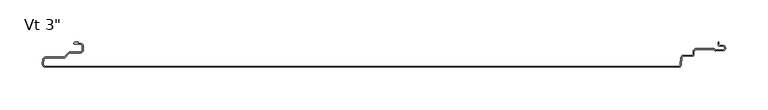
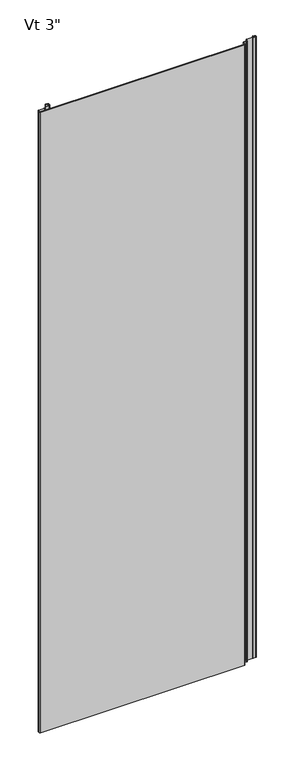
"""IFC4 building model written with IfcOpenShell, lengths in millimetres: plate geometry."""

from ifc_helpers import new_model, si_unit, point, frame_2d, origin, origin_with_axes, place, context, project, spatial, polyline, circle_curve, trimmed, segment, composite_curve, outline, extrude, source, transform, mapped, element, save


def plate_7c59897c(model_context):
    return source(origin(), model_context, "Body", "SweptSolid", [
        extrude(outline(composite_curve([segment(polyline([(-417.0087549, -72.3184064), (-416.5690675, -67.294441)]), True, "CONTINUOUS"), segment(trimmed(circle_curve(frame_2d((-412.9198392, -67.9052421)), 3.6999926), [point((-416.5690675, -67.294441))], [point((-412.9198392, -64.2052495))], False, "CARTESIAN"), True, "CONTINUOUS"), segment(polyline([(-412.9198392, -64.2052495), (-391.7773997, -64.2052495)]), True, "CONTINUOUS"), segment(trimmed(circle_curve(frame_2d((-391.7773997, -62.9052521)), 1.2999974), [point((-391.7773997, -64.2052495))], [point((-390.8581627, -63.8244891))], True, "CARTESIAN"), True, "CONTINUOUS"), segment(polyline([(-390.8581627, -63.8244891), (-386.0297453, -58.9960716)]), True, "CONTINUOUS"), segment(trimmed(circle_curve(frame_2d((-384.1205608, -60.9052561)), 2.6999946), [point((-386.0297453, -58.9960716))], [point((-384.1205608, -58.2052615))], False, "CARTESIAN"), True, "CONTINUOUS"), segment(polyline([(-384.1205608, -58.2052615), (-372.3096717, -58.2052615)]), True, "CONTINUOUS"), segment(trimmed(circle_curve(frame_2d((-372.3096717, -55.8552662)), 2.3499953), [point((-372.3096717, -58.2052615))], [point((-369.9596764, -55.8552662))], True, "CARTESIAN"), True, "CONTINUOUS"), segment(polyline([(-369.9596764, -55.8552662), (-369.9596764, -51.455275)]), True, "CONTINUOUS"), segment(trimmed(circle_curve(frame_2d((-372.3096717, -51.455275)), 2.3499953), [point((-369.9596764, -51.455275))], [point((-372.3096717, -49.1052797))], True, "CARTESIAN"), True, "CONTINUOUS"), segment(polyline([(-372.3096717, -49.1052797), (-378.8289779, -49.1052797)]), True, "CONTINUOUS"), segment(trimmed(circle_curve(frame_2d((-378.7686908, -47.9067974)), 1.1999976), [point((-378.8289779, -49.1052797))], [point((-379.9683001, -47.8762755))], False, "CARTESIAN"), True, "CONTINUOUS"), segment(trimmed(circle_curve(frame_2d((-378.7686908, -47.9067974)), 1.1999976), [point((-379.9683001, -47.8762755))], [point((-378.7671761, -46.7068008))], False, "CARTESIAN"), True, "CONTINUOUS"), segment(polyline([(-378.7671761, -46.7068008), (-375.0087827, -46.7068008), (-375.0087827, -48.1052797), (-372.3096717, -48.1052797)]), True, "CONTINUOUS"), segment(trimmed(circle_curve(frame_2d((-372.3096717, -51.455275)), 3.3499953), [point((-372.3096717, -48.1052797))], [point((-368.9596764, -51.455275))], False, "CARTESIAN"), True, "CONTINUOUS"), segment(polyline([(-368.9596764, -51.455275), (-368.9596764, -55.8552662)]), True, "CONTINUOUS"), segment(trimmed(circle_curve(frame_2d((-372.3096717, -55.8552662)), 3.3499953), [point((-368.9596764, -55.8552662))], [point((-372.3096717, -59.2052615))], False, "CARTESIAN"), True, "CONTINUOUS"), segment(polyline([(-372.3096717, -59.2052615), (-384.1205608, -59.2052615)]), True, "CONTINUOUS"), segment(trimmed(circle_curve(frame_2d((-384.1205608, -60.9052561)), 1.6999946), [point((-384.1205608, -59.2052615))], [point((-385.3226385, -59.7031784))], True, "CARTESIAN"), True, "CONTINUOUS"), segment(polyline([(-385.3226385, -59.7031784), (-390.8247096, -65.2052495), (-412.9198392, -65.2052495)]), True, "CONTINUOUS"), segment(trimmed(circle_curve(frame_2d((-412.9198392, -67.9052421)), 2.6999926), [point((-412.9198392, -65.2052495))], [point((-415.5765709, -67.4238515))], True, "CARTESIAN"), True, "CONTINUOUS"), segment(polyline([(-415.5765709, -67.4238515), (-416.0125699, -72.4056723)]), True, "CONTINUOUS"), segment(trimmed(circle_curve(frame_2d((-413.4521176, -72.629758)), 2.5702393), [point((-416.0125699, -72.4056723))], [point((-413.509446, -75.1993578))], True, "CARTESIAN"), True, "CONTINUOUS"), segment(polyline([(-413.509446, -75.1993578), (332.5384359, -75.1993578)]), True, "CONTINUOUS"), segment(trimmed(circle_curve(frame_2d((332.5384359, -73.2493637)), 1.9499941), [point((332.5384359, -75.1993578))], [point((334.4810097, -73.4193169))], True, "CARTESIAN"), True, "CONTINUOUS"), segment(polyline([(334.4810097, -73.4193169), (335.2215397, -64.9550205)]), True, "CONTINUOUS"), segment(trimmed(circle_curve(frame_2d((338.2400056, -65.219102)), 3.0299959), [point((335.2215397, -64.9550205))], [point((338.3657441, -62.1917162))], False, "CARTESIAN"), True, "CONTINUOUS"), segment(polyline([(338.3657441, -62.1917162), (348.4586765, -62.1917162)]), True, "CONTINUOUS"), segment(trimmed(circle_curve(frame_2d((348.4595944, -61.2425632)), 0.9491534), [point((348.4586765, -62.1917162))], [point((349.4087478, -61.2425632))], True, "CARTESIAN"), True, "CONTINUOUS"), segment(polyline([(349.4087478, -61.2425632), (349.4087475, -58.1011631)]), True, "CONTINUOUS"), segment(trimmed(circle_curve(frame_2d((353.4087415, -58.1011631)), 3.999994), [point((349.4087475, -58.1011631))], [point((353.4087415, -54.1011691))], False, "CARTESIAN"), True, "CONTINUOUS"), segment(polyline([(353.4087415, -54.1011691), (374.5895515, -54.1011691), (375.7334028, -56.0823775), (384.706811, -55.7271172)]), True, "CONTINUOUS"), segment(trimmed(circle_curve(frame_2d((384.6236622, -53.6268886)), 2.1018739), [point((384.706811, -55.7271172))], [point((384.7037148, -51.5265397))], True, "CARTESIAN"), True, "CONTINUOUS"), segment(polyline([(384.7037148, -51.5265397), (380.6977997, -51.2821247)]), True, "CONTINUOUS"), segment(trimmed(circle_curve(frame_2d((380.8099653, -49.4437512)), 1.8417922), [point((380.6977997, -51.2821247))], [point((378.9686884, -49.4873122))], False, "CARTESIAN"), True, "CONTINUOUS"), segment(polyline([(378.9686884, -49.4873122), (378.9686884, -46.7027656), (379.9686884, -46.7027656), (379.9686884, -49.4731984)]), True, "CONTINUOUS"), segment(trimmed(circle_curve(frame_2d((380.8099653, -49.4437512)), 0.8417922), [point((379.9686884, -49.4731984))], [point((380.7587, -50.2839809))], True, "CARTESIAN"), True, "CONTINUOUS"), segment(polyline([(380.7587, -50.2839809), (384.7543204, -50.5277677)]), True, "CONTINUOUS"), segment(trimmed(circle_curve(frame_2d((384.6236622, -53.6268886)), 3.1018739), [point((384.7543204, -50.5277677))], [point((384.7463704, -56.7263344))], False, "CARTESIAN"), True, "CONTINUOUS"), segment(polyline([(384.7463704, -56.7263344), (376.0344401, -57.0712428)]), True, "CONTINUOUS"), segment(trimmed(circle_curve(frame_2d((375.987224, -55.6220146)), 1.4499971), [point((376.0344401, -57.0712428))], [point((374.7314897, -56.3470132))], False, "CARTESIAN"), True, "CONTINUOUS"), segment(polyline([(374.7314897, -56.3470132), (374.0122013, -55.1011691), (353.4087415, -55.1011691)]), True, "CONTINUOUS"), segment(trimmed(circle_curve(frame_2d((353.4087415, -58.1011631)), 2.999994), [point((353.4087415, -55.1011691))], [point((350.4087475, -58.1011631))], True, "CARTESIAN"), True, "CONTINUOUS"), segment(polyline([(350.4087475, -58.1011631), (350.4087475, -61.2425632)]), True, "CONTINUOUS"), segment(trimmed(circle_curve(frame_2d((348.4595944, -61.2425632)), 1.9491534), [point((350.4087475, -61.2425632))], [point((348.458279, -63.1917162))], False, "CARTESIAN"), True, "CONTINUOUS"), segment(polyline([(348.458279, -63.1917162), (338.3429135, -63.1917162)]), True, "CONTINUOUS"), segment(trimmed(circle_curve(frame_2d((338.2400056, -65.219102)), 2.0299959), [point((338.3429135, -63.1917162))], [point((336.2177344, -65.0421762))], True, "CARTESIAN"), True, "CONTINUOUS"), segment(polyline([(336.2177344, -65.0421762), (335.4771973, -73.5065539)]), True, "CONTINUOUS"), segment(trimmed(circle_curve(frame_2d((332.5384288, -73.249445)), 2.9499941), [point((335.4771973, -73.5065539))], [point((332.5384307, -76.1994391))], False, "CARTESIAN"), True, "CONTINUOUS"), segment(polyline([(332.5384307, -76.1994391), (-413.4521083, -76.1999161)]), True, "CONTINUOUS"), segment(trimmed(circle_curve(frame_2d((-413.4521105, -72.6296768)), 3.5702393), [point((-413.4521083, -76.1999161))], [point((-417.0087549, -72.3184064))], False, "CARTESIAN"), True, "CONTINUOUS")], self_intersect=False)), origin_with_axes(), (0.0, 0.0, 1.0), 2400.0),
    ])


if __name__ == "__main__":
    model = new_model("IFC4")
    model_context = context("Model", 3, world=origin())
    ifc_project = project(units=[si_unit("LENGTHUNIT", "METRE", prefix="MILLI")], contexts=[model_context])
    site = spatial("IfcSite", under=ifc_project)
    building = spatial("IfcBuilding", under=site)
    placement = place(None, origin())
    plate_shape = plate_7c59897c(model_context)
    element("IfcPlate", 1, ObjectType="KIP-30-Karrier-KP-R19-CP-Vt-FL3-8_SL : Vt 3\"", at=placement, inside=building, context=model_context, shape_type="MappedRepresentation", body=[
        mapped(plate_shape, transform((0.0, 0.0, 0.0), x_axis=(1.0, 0.0, 0.0), y_axis=(0.0, 1.0, 0.0), z_axis=(0.0, 0.0, 1.0))),
    ])
    save(model, "model.ifc")
